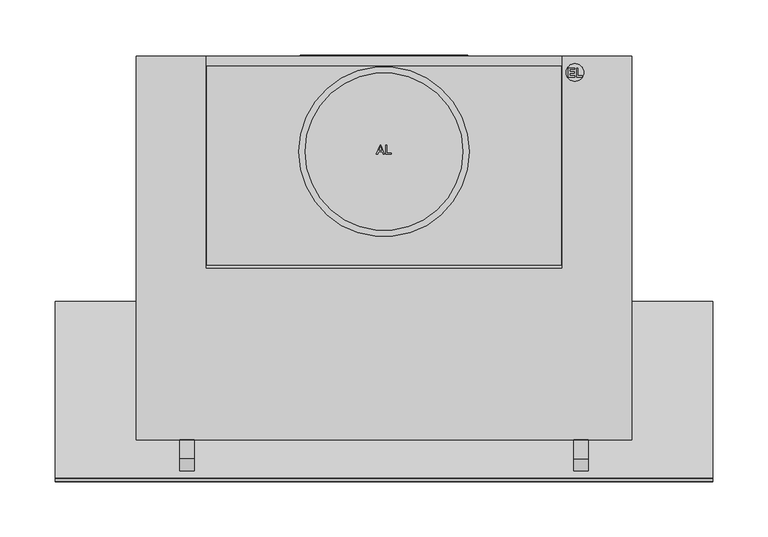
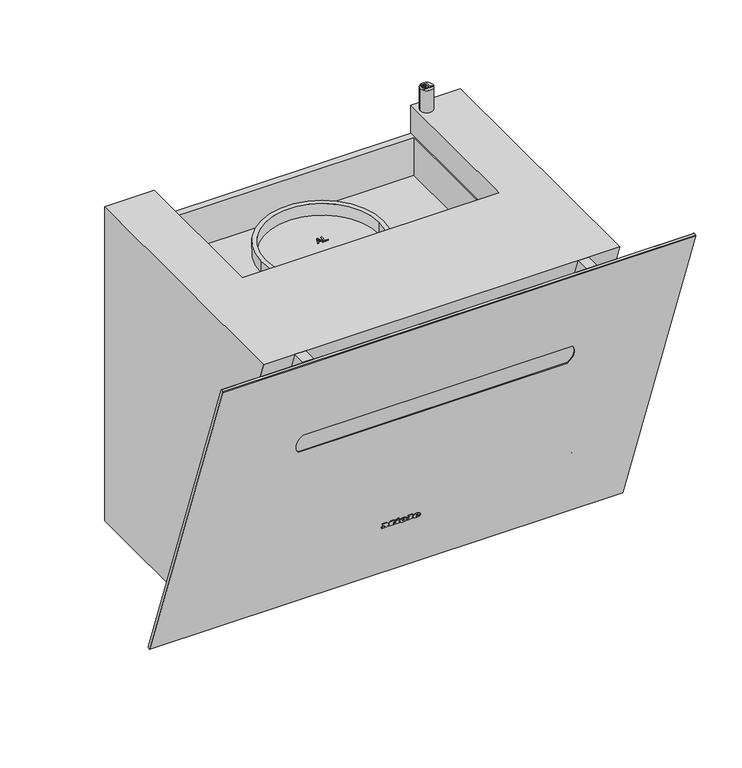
"""IFC4 building model written with IfcOpenShell, lengths in millimetres: proxy geometry, 12555210_TR_DAH1650_OBSW : 28H1650B_TR_12555210_DAH1650_OBSW."""

from ifc_helpers import new_model, si_unit, point, frame, frame_2d, origin, origin_with_axes, place, context, project, spatial, polyline, circle_curve, ellipse_curve, trimmed, segment, composite_curve, outline, extrude, faceted_brep, source, transform, mapped, element, save
from ifc_brep_helpers import plane_surface, cylinder_surface, revolved_surface, extruded_surface, advanced_brep


def specialty_equipment_5fea437a(model_context):
    return source(origin(), model_context, "Body", "SolidModel", [
        extrude(outline(polyline([(0.0, 0.0), (0.968, 0.0), (0.968, 5.352), (0.0, 5.352), (0.0, 6.696), (3.52, 6.696), (3.52, 5.352), (2.56, 5.352), (2.56, 1.9488753), (6.136, 6.696), (9.728, 1.8807777), (9.728, 5.352), (8.744, 5.352), (8.744, 6.696), (15.128, 6.696), (15.128, 5.352), (14.112, 5.352), (14.112, 0.0), (15.128, 0.0), (15.128, -1.304), (10.256, -1.304), (7.92, 1.696), (5.576, -1.304), (0.0, -1.304), (0.0, 0.0)])), frame((-24.271984, -261.1380975, 82.2921818), z_axis=(0.0, 0.9396926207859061, 0.34202014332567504), x_axis=(1.0, 0.0, 0.0)), (0.0, 0.0, 1.0), 1.0),
        extrude(outline(polyline([(0.0, 0.0), (0.96, 0.0), (0.96, 5.352), (0.0, 5.352), (0.0, 6.696), (6.488, 6.696), (6.488, 5.352), (5.504, 5.352), (5.504, -1.304), (0.0, -1.304), (0.0, 0.0)])), frame((8.192016, -261.1380975, 82.2921818), z_axis=(0.0, 0.9396926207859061, 0.34202014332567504), x_axis=(1.0, 0.0, 0.0)), (0.0, 0.0, 1.0), 1.0),
        extrude(outline(polyline([(0.0, 0.0), (1.4315306, 0.0), (1.4390414, -2.9920869), (0.0109086, -2.9993294), (0.0, 0.0)])), frame((-6.351984, -261.4226582, 83.074006), z_axis=(0.0, 0.9396926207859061, 0.342020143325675), x_axis=(0.42472021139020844, 0.30963927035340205, -0.8507269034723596)), (0.0, 0.0, 1.0), 1.0),
        extrude(outline(polyline([(0.4933907, 2.4141097), (1.7898156, 3.022309), (2.1941493, 2.1604399), (5.1636141, 3.5535222), (4.7592805, 4.4153913), (5.9760369, 4.9862153), (8.6568708, -0.728194), (7.4401145, -1.299018), (7.0459741, -0.4588767), (2.7800843, -2.4601583), (0.4933907, 2.4141097)])), frame((-6.351984, -261.4226582, 83.074006), z_axis=(0.0, 0.9396926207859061, 0.342020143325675), x_axis=(0.42472021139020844, 0.30963927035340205, -0.8507269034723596)), (0.0, 0.0, 1.0), 1.0),
        advanced_brep(
        [(2.392016, -259.4964008, 77.7816572), (2.392016, -259.7727531, 78.5409288), (7.744016, -259.7727531, 78.5409288), (-1.567984, -259.7727531, 78.5409288), (0.632016, -258.8479306, 76.0), (7.608016, -259.4964008, 77.7816572), (5.192016, -259.4964008, 77.7816572), (3.288016, -259.1899507, 76.9396926), (2.392016, -260.1229817, 79.5031741), (2.392016, -260.4212233, 80.3225861), (3.760016, -260.4212233, 80.3225861), (3.760016, -260.1229817, 79.5031741), (2.392016, -258.5567082, 78.1236774), (3.288016, -258.2502581, 77.2817128), (5.192016, -258.5567082, 78.1236774), (7.608016, -258.5567082, 78.1236774), (0.632016, -257.908238, 76.3420201), (-1.567984, -258.8330604, 78.882949), (7.744016, -258.8330604, 78.882949), (2.392016, -258.8330604, 78.882949), (2.392016, -259.1832891, 79.8451942), (3.760016, -259.1832891, 79.8451942), (3.760016, -259.4815306, 80.6646062), (2.392016, -259.4815306, 80.6646062)],
        [
            (0, 1),
            (1, 2),
            (2, 3, ellipse_curve(frame((3.088016, -259.7727531, 78.5409288), z_axis=(0.0, -0.9396926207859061, -0.34202014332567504), x_axis=(-1.0, 0.0, 0.0)), 4.656, 3.848)),
            (3, 4, circle_curve(frame((1.5280596, -259.8657825, 78.7965252), z_axis=(0.0, -0.9396926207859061, -0.34202014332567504), x_axis=(0.0, 0.34202014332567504, -0.9396926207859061)), 3.1079688)),
            (4, 5, circle_curve(frame((2.9948096, -260.5881291, 80.7811561), z_axis=(0.0, -0.9396926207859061, -0.34202014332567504), x_axis=(0.0, 0.34202014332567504, -0.9396926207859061)), 5.6098607)),
            (5, 6),
            (6, 7, circle_curve(frame((3.6790748, -259.7508638, 78.4807885), z_axis=(0.0, 0.9396926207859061, 0.34202014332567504), x_axis=(0.0, 0.34202014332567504, -0.9396926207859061)), 1.6859795)),
            (7, 0, circle_curve(frame((3.288016, -259.4964008, 77.7816572), z_axis=(0.0, 0.9396926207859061, 0.34202014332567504), x_axis=(0.0, 0.34202014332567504, -0.9396926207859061)), 0.896)),
            (8, 9),
            (9, 10, circle_curve(frame((3.076016, -260.4212233, 80.3225861), z_axis=(0.0, 0.9396926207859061, 0.34202014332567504), x_axis=(0.0, 0.34202014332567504, -0.9396926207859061)), 0.684)),
            (10, 11),
            (11, 8),
            (12, 13, circle_curve(frame((3.288016, -258.5567082, 78.1236774), z_axis=(0.0, -0.9396926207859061, -0.34202014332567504), x_axis=(0.0, 0.34202014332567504, -0.9396926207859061)), 0.896)),
            (13, 14, circle_curve(frame((3.6790748, -258.8111712, 78.8228087), z_axis=(0.0, -0.9396926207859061, -0.34202014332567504), x_axis=(0.0, 0.34202014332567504, -0.9396926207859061)), 1.6859795)),
            (14, 15),
            (15, 16, circle_curve(frame((2.9948096, -259.6484365, 81.1231762), z_axis=(0.0, 0.9396926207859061, 0.34202014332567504), x_axis=(0.0, 0.34202014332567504, -0.9396926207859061)), 5.6098607)),
            (16, 17, circle_curve(frame((1.5280596, -258.9260899, 79.1385454), z_axis=(0.0, 0.9396926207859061, 0.34202014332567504), x_axis=(0.0, 0.34202014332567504, -0.9396926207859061)), 3.1079688)),
            (17, 18, ellipse_curve(frame((3.088016, -258.8330604, 78.882949), z_axis=(0.0, 0.9396926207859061, 0.34202014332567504), x_axis=(-1.0, 0.0, 0.0)), 4.656, 3.848)),
            (18, 19),
            (19, 12),
            (20, 21),
            (21, 22),
            (22, 23, circle_curve(frame((3.076016, -259.4815306, 80.6646062), z_axis=(0.0, -0.9396926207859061, -0.34202014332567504), x_axis=(0.0, 0.34202014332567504, -0.9396926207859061)), 0.684)),
            (23, 20),
            (0, 12),
            (19, 1),
            (18, 2),
            (5, 15),
            (14, 6),
            (17, 3),
            (13, 7),
            (16, 4),
            (8, 20),
            (23, 9),
            (22, 10),
            (21, 11),
        ],
        [
            plane_surface(frame((2.392016, -259.7727531, 78.5409288), z_axis=(0.0, -0.9396926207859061, -0.34202014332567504), x_axis=(0.0, -0.34202014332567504, 0.9396926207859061))),
            plane_surface(frame((2.392016, -258.8330604, 78.882949), z_axis=(0.0, 0.9396926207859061, 0.34202014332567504), x_axis=(0.0, 0.34202014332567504, -0.9396926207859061))),
            plane_surface(frame((2.392016, -259.4964008, 77.7816572), z_axis=(1.0, 0.0, 0.0), x_axis=(0.0, 0.9396926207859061, 0.34202014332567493))),
            plane_surface(frame((2.392016, -259.7727531, 78.5409288), z_axis=(0.0, 0.34202014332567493, -0.9396926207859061), x_axis=(0.0, 0.9396926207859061, 0.34202014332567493))),
            plane_surface(frame((7.608016, -259.4964008, 77.7816572), z_axis=(0.0, -0.34202014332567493, 0.9396926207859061), x_axis=(0.0, 0.9396926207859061, 0.34202014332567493))),
            extruded_surface(trimmed(ellipse_curve(frame((3.088016, -257.8933678, 79.2249691), z_axis=(0.0, -0.9396926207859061, -0.34202014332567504), x_axis=(-1.0, 0.0, 0.0)), 4.656, 3.848), [point((7.744016, -257.8933678, 79.2249691))], [point((-1.567984, -257.8933678, 79.2249691))], True, "CARTESIAN"), (0.0, -0.9396926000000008, -0.34202009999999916), 0.9999999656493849),
            revolved_surface(polyline([(3.6790748, -258.2345321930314, 77.23850622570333), (3.6790748, -259.1742248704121, 76.89648606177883)]), (3.6790748, -258.8111712, 78.8228087), (0.0, 0.9396926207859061, 0.34202014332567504)),
            revolved_surface(polyline([(3.288016, -258.25025810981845, 77.28171282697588), (3.288016, -259.1899507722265, 76.93969266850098)]), (3.288016, -258.5567082, 78.1236774), (0.0, 0.9396926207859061, 0.34202014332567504)),
            cylinder_surface(frame((1.5280596, -258.9260899, 79.1385454), z_axis=(0.0, -0.9396926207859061, -0.34202014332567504), x_axis=(0.0, 0.34202014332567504, -0.9396926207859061)), 3.1079688),
            cylinder_surface(frame((2.9948096, -259.6484365, 81.1231762), z_axis=(0.0, -0.9396926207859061, -0.34202014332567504), x_axis=(0.0, 0.34202014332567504, -0.9396926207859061)), 5.6098607),
            plane_surface(frame((2.392016, -260.1229817, 79.5031741), z_axis=(1.0, 0.0, 0.0), x_axis=(0.0, 0.9396926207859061, 0.34202014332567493))),
            revolved_surface(polyline([(3.076016, -259.2475888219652, 80.02185644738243), (3.076016, -260.1872814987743, 79.67983628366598)]), (3.076016, -259.4815306, 80.6646062), (0.0, 0.9396926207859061, 0.34202014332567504)),
            plane_surface(frame((3.760016, -260.4212233, 80.3225861), z_axis=(-1.0, 0.0, 0.0), x_axis=(0.0, 0.9396926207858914, 0.3420201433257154))),
            plane_surface(frame((3.760016, -260.1229817, 79.5031741), z_axis=(0.0, -0.34202014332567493, 0.9396926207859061), x_axis=(0.0, 0.9396926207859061, 0.34202014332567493))),
        ],
        [
            (0, [[1, 2, 3, 4, 5, 6, 7, 8], [9, 10, 11, 12]]),
            (1, [[13, 14, 15, 16, 17, 18, 19, 20], [21, 22, 23, 24]]),
            (2, [[-1, 25, -20, 26]]),
            (3, [[-2, -26, -19, 27]]),
            (4, [[-6, 28, -15, 29]]),
            (5, [[-3, -27, -18, 30]]),
            (6, [[-7, -29, -14, 31]]),
            (7, [[-8, -31, -13, -25]]),
            (8, [[-4, -30, -17, 32]]),
            (9, [[-5, -32, -16, -28]]),
            (10, [[-9, 33, -24, 34]]),
            (11, [[-10, -34, -23, 35]]),
            (12, [[-11, -35, -22, 36]]),
            (13, [[-12, -36, -21, -33]]),
        ],
    ),
        advanced_brep(
        [(19.088016, -259.4964008, 77.7816572), (19.088016, -259.7727531, 78.5409288), (24.440016, -259.7727531, 78.5409288), (15.128016, -259.7727531, 78.5409288), (17.328016, -258.8479306, 76.0), (24.304016, -259.4964008, 77.7816572), (21.888016, -259.4964008, 77.7816572), (19.984016, -259.1899507, 76.9396926), (19.088016, -260.1229817, 79.5031741), (19.088016, -260.4212233, 80.3225861), (20.456016, -260.4212233, 80.3225861), (20.456016, -260.1229817, 79.5031741), (19.088016, -258.5567082, 78.1236774), (19.984016, -258.2502581, 77.2817128), (21.888016, -258.5567082, 78.1236774), (24.304016, -258.5567082, 78.1236774), (17.328016, -257.908238, 76.3420201), (15.128016, -258.8330604, 78.882949), (24.440016, -258.8330604, 78.882949), (19.088016, -258.8330604, 78.882949), (19.088016, -259.1832891, 79.8451942), (20.456016, -259.1832891, 79.8451942), (20.456016, -259.4815306, 80.6646062), (19.088016, -259.4815306, 80.6646062)],
        [
            (0, 1),
            (1, 2),
            (2, 3, ellipse_curve(frame((19.784016, -259.7727531, 78.5409288), z_axis=(0.0, -0.9396926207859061, -0.34202014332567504), x_axis=(-1.0, 0.0, 0.0)), 4.656, 3.848)),
            (3, 4, circle_curve(frame((18.2240596, -259.8657825, 78.7965252), z_axis=(0.0, -0.9396926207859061, -0.34202014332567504), x_axis=(0.0, 0.34202014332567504, -0.9396926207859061)), 3.1079688)),
            (4, 5, circle_curve(frame((19.6908096, -260.5881291, 80.7811561), z_axis=(0.0, -0.9396926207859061, -0.34202014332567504), x_axis=(0.0, 0.34202014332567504, -0.9396926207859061)), 5.6098607)),
            (5, 6),
            (6, 7, circle_curve(frame((20.3750748, -259.7508638, 78.4807885), z_axis=(0.0, 0.9396926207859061, 0.34202014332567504), x_axis=(0.0, 0.34202014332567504, -0.9396926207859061)), 1.6859795)),
            (7, 0, circle_curve(frame((19.984016, -259.4964008, 77.7816572), z_axis=(0.0, 0.9396926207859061, 0.34202014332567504), x_axis=(0.0, 0.34202014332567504, -0.9396926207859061)), 0.896)),
            (8, 9),
            (9, 10, circle_curve(frame((19.772016, -260.4212233, 80.3225861), z_axis=(0.0, 0.9396926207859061, 0.34202014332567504), x_axis=(0.0, 0.34202014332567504, -0.9396926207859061)), 0.684)),
            (10, 11),
            (11, 8),
            (12, 13, circle_curve(frame((19.984016, -258.5567082, 78.1236774), z_axis=(0.0, -0.9396926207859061, -0.34202014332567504), x_axis=(0.0, 0.34202014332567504, -0.9396926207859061)), 0.896)),
            (13, 14, circle_curve(frame((20.3750748, -258.8111712, 78.8228087), z_axis=(0.0, -0.9396926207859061, -0.34202014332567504), x_axis=(0.0, 0.34202014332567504, -0.9396926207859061)), 1.6859795)),
            (14, 15),
            (15, 16, circle_curve(frame((19.6908096, -259.6484365, 81.1231762), z_axis=(0.0, 0.9396926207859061, 0.34202014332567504), x_axis=(0.0, 0.34202014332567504, -0.9396926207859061)), 5.6098607)),
            (16, 17, circle_curve(frame((18.2240596, -258.9260899, 79.1385454), z_axis=(0.0, 0.9396926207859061, 0.34202014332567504), x_axis=(0.0, 0.34202014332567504, -0.9396926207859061)), 3.1079688)),
            (17, 18, ellipse_curve(frame((19.784016, -258.8330604, 78.882949), z_axis=(0.0, 0.9396926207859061, 0.34202014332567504), x_axis=(-1.0, 0.0, 0.0)), 4.656, 3.848)),
            (18, 19),
            (19, 12),
            (20, 21),
            (21, 22),
            (22, 23, circle_curve(frame((19.772016, -259.4815306, 80.6646062), z_axis=(0.0, -0.9396926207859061, -0.34202014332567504), x_axis=(0.0, 0.34202014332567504, -0.9396926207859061)), 0.684)),
            (23, 20),
            (0, 12),
            (19, 1),
            (18, 2),
            (5, 15),
            (14, 6),
            (17, 3),
            (13, 7),
            (16, 4),
            (8, 20),
            (23, 9),
            (22, 10),
            (21, 11),
        ],
        [
            plane_surface(frame((19.088016, -259.7727531, 78.5409288), z_axis=(0.0, -0.9396926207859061, -0.34202014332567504), x_axis=(0.0, -0.34202014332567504, 0.9396926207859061))),
            plane_surface(frame((19.088016, -258.8330604, 78.882949), z_axis=(0.0, 0.9396926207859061, 0.34202014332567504), x_axis=(0.0, 0.34202014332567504, -0.9396926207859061))),
            plane_surface(frame((19.088016, -259.4964008, 77.7816572), z_axis=(1.0, 0.0, 0.0), x_axis=(0.0, 0.9396926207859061, 0.34202014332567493))),
            plane_surface(frame((19.088016, -259.7727531, 78.5409288), z_axis=(0.0, 0.34202014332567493, -0.9396926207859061), x_axis=(0.0, 0.9396926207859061, 0.34202014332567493))),
            plane_surface(frame((24.304016, -259.4964008, 77.7816572), z_axis=(0.0, -0.34202014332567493, 0.9396926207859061), x_axis=(0.0, 0.9396926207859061, 0.34202014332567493))),
            extruded_surface(trimmed(ellipse_curve(frame((19.784016, -257.8933678, 79.2249691), z_axis=(0.0, -0.9396926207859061, -0.34202014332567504), x_axis=(-1.0, 0.0, 0.0)), 4.656, 3.848), [point((24.440016, -257.8933678, 79.2249691))], [point((15.128016, -257.8933678, 79.2249691))], True, "CARTESIAN"), (0.0, -0.9396926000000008, -0.34202009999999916), 0.9999999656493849),
            revolved_surface(polyline([(20.3750748, -258.2345321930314, 77.23850622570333), (20.3750748, -259.1742248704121, 76.89648606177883)]), (20.3750748, -258.8111712, 78.8228087), (0.0, 0.9396926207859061, 0.34202014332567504)),
            revolved_surface(polyline([(19.984016, -258.25025810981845, 77.28171282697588), (19.984016, -259.1899507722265, 76.93969266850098)]), (19.984016, -258.5567082, 78.1236774), (0.0, 0.9396926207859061, 0.34202014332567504)),
            cylinder_surface(frame((18.2240596, -258.9260899, 79.1385454), z_axis=(0.0, -0.9396926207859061, -0.34202014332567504), x_axis=(0.0, 0.34202014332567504, -0.9396926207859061)), 3.1079688),
            cylinder_surface(frame((19.6908096, -259.6484365, 81.1231762), z_axis=(0.0, -0.9396926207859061, -0.34202014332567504), x_axis=(0.0, 0.34202014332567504, -0.9396926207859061)), 5.6098607),
            plane_surface(frame((19.088016, -260.1229817, 79.5031741), z_axis=(1.0, 0.0, 0.0), x_axis=(0.0, 0.9396926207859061, 0.34202014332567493))),
            revolved_surface(polyline([(19.772016, -259.2475888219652, 80.02185644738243), (19.772016, -260.1872814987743, 79.67983628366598)]), (19.772016, -259.4815306, 80.6646062), (0.0, 0.9396926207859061, 0.34202014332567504)),
            plane_surface(frame((20.456016, -260.4212233, 80.3225861), z_axis=(-1.0, 0.0, 0.0), x_axis=(0.0, 0.9396926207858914, 0.3420201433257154))),
            plane_surface(frame((20.456016, -260.1229817, 79.5031741), z_axis=(0.0, -0.34202014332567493, 0.9396926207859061), x_axis=(0.0, 0.9396926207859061, 0.34202014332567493))),
        ],
        [
            (0, [[1, 2, 3, 4, 5, 6, 7, 8], [9, 10, 11, 12]]),
            (1, [[13, 14, 15, 16, 17, 18, 19, 20], [21, 22, 23, 24]]),
            (2, [[-1, 25, -20, 26]]),
            (3, [[-2, -26, -19, 27]]),
            (4, [[-6, 28, -15, 29]]),
            (5, [[-3, -27, -18, 30]]),
            (6, [[-7, -29, -14, 31]]),
            (7, [[-8, -31, -13, -25]]),
            (8, [[-4, -30, -17, 32]]),
            (9, [[-5, -32, -16, -28]]),
            (10, [[-9, 33, -24, 34]]),
            (11, [[-10, -34, -23, 35]]),
            (12, [[-11, -35, -22, 36]]),
            (13, [[-12, -36, -21, -33]]),
        ],
    ),
        advanced_brep(
        [(-198.5, -231.2422284, 80.5173231), (-198.5, -240.9843308, 107.2835295), (-198.5, -235.8312261, 109.4708926), (-198.5, -225.8887113, 82.1540576), (-198.5, -250.514978, 76.8365225), (-198.5, -258.1140866, 97.7149017), (-198.5, -258.4754112, 96.7430581), (-198.5, -251.4164577, 77.3487429), (-198.5, -254.9459345, 87.0459005), (-198.5, -230.9198317, 95.7906867)],
        [
            (0, 1, circle_curve(frame((-198.5, -236.1132796, 93.9004263), z_axis=(0.0, 0.9396926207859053, 0.3420201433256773), x_axis=(0.0, -0.3420201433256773, 0.9396926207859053)), 14.2420009)),
            (1, 2),
            (2, 3, circle_curve(frame((-198.5, -230.8599687, 95.8124751), z_axis=(0.0, -0.9396926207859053, -0.3420201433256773), x_axis=(0.0, -0.3420201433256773, 0.9396926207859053)), 14.5349844)),
            (3, 0),
            (4, 5, circle_curve(frame((-198.5, -254.3145323, 87.2757121), z_axis=(0.0, 0.9396926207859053, 0.3420201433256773), x_axis=(0.0, -0.3420201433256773, 0.9396926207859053)), 11.1091535)),
            (5, 1),
            (0, 4),
            (6, 7, circle_curve(frame((-198.5, -254.9459345, 87.0459005), z_axis=(0.0, 0.9396926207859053, 0.3420201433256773), x_axis=(0.0, -0.3420201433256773, 0.9396926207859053)), 10.3194996)),
            (7, 4),
            (4, 5, circle_curve(frame((-198.5, -254.3145323, 87.2757121), z_axis=(0.0, -0.9396926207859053, -0.3420201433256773), x_axis=(0.0, -0.3420201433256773, 0.9396926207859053)), 11.1091535)),
            (5, 6),
            (8, 7),
            (6, 8),
            (2, 9),
            (9, 3),
            (2, 3, circle_curve(frame((-198.5, -230.9198317, 95.7906867), z_axis=(0.0, 0.9396926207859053, 0.3420201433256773), x_axis=(0.0, -0.3420201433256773, 0.9396926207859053)), 14.535124)),
            (1, 0, circle_curve(frame((-198.5, -236.1132796, 93.9004263), z_axis=(0.0, 0.9396926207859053, 0.3420201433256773), x_axis=(0.0, -0.3420201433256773, 0.9396926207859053)), 14.2420009)),
            (7, 6, circle_curve(frame((-198.5, -254.9459345, 87.0459005), z_axis=(0.0, 0.9396926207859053, 0.3420201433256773), x_axis=(0.0, -0.3420201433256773, 0.9396926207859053)), 10.3194996)),
        ],
        [
            revolved_surface(polyline([(-198.5, -235.8312261, 109.4708926), (-198.5, -240.9843308, 107.2835295)]), (-198.5, -255.2773841, 86.9252627), (0.0, -0.9396926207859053, -0.3420201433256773)),
            revolved_surface(polyline([(-198.5, -240.9843308, 107.2835295), (-198.5, -258.1140866, 97.7149017)]), (-198.5, -255.2773841, 86.9252627), (0.0, -0.9396926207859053, -0.3420201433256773)),
            revolved_surface(polyline([(-198.5, -258.1140866, 97.7149017), (-198.5, -258.4754112, 96.7430581)]), (-198.5, -255.2773841, 86.9252627), (0.0, -0.9396926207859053, -0.3420201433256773)),
            plane_surface(frame((-198.5, -254.9459345, 87.0459005), z_axis=(0.0, -0.9396926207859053, -0.3420201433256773), x_axis=(0.0, -0.3420201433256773, 0.9396926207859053))),
            plane_surface(frame((-198.5, -230.9198317, 95.7906867), z_axis=(0.0, 0.9396926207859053, 0.3420201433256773), x_axis=(0.0, -0.3420201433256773, 0.9396926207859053))),
        ],
        [
            (0, [[1, 2, 3, 4]]),
            (1, [[5, 6, -1, 7]]),
            (2, [[8, 9, 10, 11]]),
            (3, [[12, -8, 13]]),
            (4, [[-3, 14, 15]]),
            (4, [[16, -15, -14]]),
            (0, [[17, -4, -16, -2]]),
            (1, [[-10, -7, -17, -6]]),
            (2, [[18, -11, -5, -9]]),
            (3, [[-13, -18, -12]]),
        ],
    ),
        advanced_brep(
        [(-198.5, -262.8067778, 105.2732379), (-198.5, -249.4001153, 68.4387353), (-198.5, -252.3199878, 80.8696014), (-198.5, -257.0531232, 93.8737841), (-198.5, -250.699917, 68.232867), (-198.5, -263.9348133, 104.5954458), (-198.5, -257.3173652, 86.4141564), (-198.5, -254.6865555, 87.3716928)],
        [
            (0, 1, circle_curve(frame((-198.5, -256.1034466, 86.8559866), z_axis=(0.0, 0.9396926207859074, 0.34202014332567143), x_axis=(0.0, -0.34202014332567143, 0.9396926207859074)), 19.5992294)),
            (1, 2),
            (2, 3, circle_curve(frame((-198.5, -254.6865555, 87.3716928), z_axis=(0.0, -0.9396926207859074, -0.34202014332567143), x_axis=(0.0, -0.34202014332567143, 0.9396926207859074)), 6.9193811)),
            (3, 0),
            (1, 0, circle_curve(frame((-198.5, -256.1034466, 86.8559866), z_axis=(0.0, 0.9396926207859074, 0.34202014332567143), x_axis=(0.0, -0.34202014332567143, 0.9396926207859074)), 19.5992294)),
            (3, 2, circle_curve(frame((-198.5, -254.6865555, 87.3716928), z_axis=(0.0, -0.9396926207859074, -0.34202014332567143), x_axis=(0.0, -0.34202014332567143, 0.9396926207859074)), 6.9193811)),
            (4, 5, circle_curve(frame((-198.5, -257.3173652, 86.4141564), z_axis=(0.0, 0.9396926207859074, 0.34202014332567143), x_axis=(0.0, -0.34202014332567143, 0.9396926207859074)), 19.3481241)),
            (5, 0),
            (1, 4),
            (5, 4, circle_curve(frame((-198.5, -257.3173652, 86.4141564), z_axis=(0.0, 0.9396926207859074, 0.34202014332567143), x_axis=(0.0, -0.34202014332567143, 0.9396926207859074)), 19.3481241)),
            (6, 5),
            (4, 6),
            (3, 7),
            (7, 2),
        ],
        [
            revolved_surface(polyline([(-198.5, -257.0531232, 93.8737841), (-198.5, -262.8067778, 105.2732379)]), (-198.5, -254.6865555, 87.3716928), (0.0, -0.9396926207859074, -0.34202014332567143)),
            revolved_surface(polyline([(-198.5, -262.8067778, 105.2732379), (-198.5, -263.9348133, 104.5954458)]), (-198.5, -254.6865555, 87.3716928), (0.0, -0.9396926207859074, -0.34202014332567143)),
            plane_surface(frame((-198.5, -257.3173652, 86.4141564), z_axis=(0.0, -0.9396926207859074, -0.34202014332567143), x_axis=(0.0, -0.34202014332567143, 0.9396926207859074))),
            plane_surface(frame((-198.5, -254.6865555, 87.3716928), z_axis=(0.0, 0.9396926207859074, 0.34202014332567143), x_axis=(0.0, -0.34202014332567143, 0.9396926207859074))),
        ],
        [
            (0, [[1, 2, 3, 4]]),
            (0, [[5, -4, 6, -2]]),
            (1, [[7, 8, -5, 9]]),
            (1, [[10, -9, -1, -8]]),
            (2, [[11, -7, 12]]),
            (2, [[-12, -10, -11]]),
            (3, [[-6, 13, 14]]),
            (3, [[-3, -14, -13]]),
        ],
    ),
        advanced_brep(
        [(198.5, -225.9091808, 82.1477994), (198.5, -235.8509293, 109.4625291), (198.5, -240.9843308, 107.2835295), (198.5, -231.2422284, 80.5173231), (198.5, -258.1140866, 97.7149017), (198.5, -250.514978, 76.8365225), (198.5, -230.9018417, 95.8650227), (198.5, -258.4754112, 96.7430581), (198.5, -251.4164577, 77.3487429), (198.5, -254.9459345, 87.0459005)],
        [
            (0, 1, circle_curve(frame((198.5, -230.8800551, 95.8051643), z_axis=(0.0, -0.9396926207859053, -0.3420201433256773), x_axis=(0.0, -0.3420201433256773, 0.9396926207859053)), 14.5338641)),
            (1, 2),
            (2, 3, circle_curve(frame((198.5, -236.1132796, 93.9004263), z_axis=(0.0, 0.9396926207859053, 0.3420201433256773), x_axis=(0.0, -0.3420201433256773, 0.9396926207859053)), 14.2420009)),
            (3, 0),
            (2, 4),
            (4, 5, circle_curve(frame((198.5, -254.3145323, 87.2757121), z_axis=(0.0, 0.9396926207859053, 0.3420201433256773), x_axis=(0.0, -0.3420201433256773, 0.9396926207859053)), 11.1091535)),
            (5, 3),
            (6, 1),
            (0, 6),
            (0, 1, circle_curve(frame((198.5, -230.8800551, 95.8051643), z_axis=(0.0, 0.9396926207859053, 0.3420201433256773), x_axis=(0.0, -0.3420201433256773, 0.9396926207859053)), 14.5338641)),
            (3, 2, circle_curve(frame((198.5, -236.1132796, 93.9004263), z_axis=(0.0, 0.9396926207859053, 0.3420201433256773), x_axis=(0.0, -0.3420201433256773, 0.9396926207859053)), 14.2420009)),
            (5, 4, circle_curve(frame((198.5, -254.3145323, 87.2757121), z_axis=(0.0, 0.9396926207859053, 0.3420201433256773), x_axis=(0.0, -0.3420201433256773, 0.9396926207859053)), 11.1091535)),
            (4, 7),
            (7, 8, circle_curve(frame((198.5, -254.9459345, 87.0459005), z_axis=(0.0, 0.9396926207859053, 0.3420201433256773), x_axis=(0.0, -0.3420201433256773, 0.9396926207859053)), 10.3194996)),
            (8, 5),
            (8, 7, circle_curve(frame((198.5, -254.9459345, 87.0459005), z_axis=(0.0, 0.9396926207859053, 0.3420201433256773), x_axis=(0.0, -0.3420201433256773, 0.9396926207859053)), 10.3194996)),
            (7, 9),
            (9, 8),
        ],
        [
            revolved_surface(polyline([(198.5, -240.9843308, 107.2835295), (198.5, -235.8509293, 109.4625291)]), (198.5, -255.2773841, 86.9252627), (0.0, 0.9396926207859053, 0.3420201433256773)),
            revolved_surface(polyline([(198.5, -258.1140866, 97.7149017), (198.5, -240.9843308, 107.2835295)]), (198.5, -255.2773841, 86.9252627), (0.0, 0.9396926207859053, 0.3420201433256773)),
            plane_surface(frame((198.5, -230.8800551, 95.8051643), z_axis=(0.0, 0.9396926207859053, 0.3420201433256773), x_axis=(0.0, -0.3420201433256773, 0.9396926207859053))),
            revolved_surface(polyline([(198.5, -258.4754112, 96.7430581), (198.5, -258.1140866, 97.7149017)]), (198.5, -255.2773841, 86.9252627), (0.0, 0.9396926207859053, 0.3420201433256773)),
            plane_surface(frame((198.5, -254.9459345, 87.0459005), z_axis=(0.0, -0.9396926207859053, -0.3420201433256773), x_axis=(0.0, -0.3420201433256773, 0.9396926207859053))),
        ],
        [
            (0, [[1, 2, 3, 4]]),
            (1, [[-3, 5, 6, 7]]),
            (2, [[8, -1, 9]]),
            (2, [[-9, 10, -8]]),
            (0, [[-10, -4, 11, -2]]),
            (1, [[-11, -7, 12, -5]]),
            (3, [[-6, 13, 14, 15]]),
            (3, [[-12, -15, 16, -13]]),
            (4, [[-14, 17, 18]]),
            (4, [[-16, -18, -17]]),
        ],
    ),
        advanced_brep(
        [(198.5, -252.3199878, 80.8696014), (198.5, -257.0531232, 93.8737841), (198.5, -262.8067778, 105.2732379), (198.5, -249.4001153, 68.4387353), (198.5, -263.9348133, 104.5954458), (198.5, -250.699917, 68.232867), (198.5, -257.3173652, 86.4141564), (198.5, -254.6865555, 87.3716928)],
        [
            (0, 1, circle_curve(frame((198.5, -254.6865555, 87.3716928), z_axis=(0.0, -0.9396926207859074, -0.34202014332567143), x_axis=(0.0, -0.34202014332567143, 0.9396926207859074)), 6.9193811)),
            (1, 2),
            (2, 3, circle_curve(frame((198.5, -256.1034466, 86.8559866), z_axis=(0.0, 0.9396926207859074, 0.34202014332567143), x_axis=(0.0, -0.34202014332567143, 0.9396926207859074)), 19.5992294)),
            (3, 0),
            (1, 0, circle_curve(frame((198.5, -254.6865555, 87.3716928), z_axis=(0.0, -0.9396926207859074, -0.34202014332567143), x_axis=(0.0, -0.34202014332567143, 0.9396926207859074)), 6.9193811)),
            (3, 2, circle_curve(frame((198.5, -256.1034466, 86.8559866), z_axis=(0.0, 0.9396926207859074, 0.34202014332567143), x_axis=(0.0, -0.34202014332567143, 0.9396926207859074)), 19.5992294)),
            (2, 4),
            (4, 5, circle_curve(frame((198.5, -257.3173652, 86.4141564), z_axis=(0.0, 0.9396926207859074, 0.34202014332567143), x_axis=(0.0, -0.34202014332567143, 0.9396926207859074)), 19.3481241)),
            (5, 3),
            (5, 4, circle_curve(frame((198.5, -257.3173652, 86.4141564), z_axis=(0.0, 0.9396926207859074, 0.34202014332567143), x_axis=(0.0, -0.34202014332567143, 0.9396926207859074)), 19.3481241)),
            (4, 6),
            (6, 5),
            (7, 1),
            (0, 7),
        ],
        [
            revolved_surface(polyline([(198.5, -262.8067778, 105.2732379), (198.5, -257.0531232, 93.8737841)]), (198.5, -254.6865555, 87.3716928), (0.0, 0.9396926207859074, 0.34202014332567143)),
            revolved_surface(polyline([(198.5, -263.9348133, 104.5954458), (198.5, -262.8067778, 105.2732379)]), (198.5, -254.6865555, 87.3716928), (0.0, 0.9396926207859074, 0.34202014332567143)),
            plane_surface(frame((198.5, -257.3173652, 86.4141564), z_axis=(0.0, -0.9396926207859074, -0.34202014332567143), x_axis=(0.0, -0.34202014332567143, 0.9396926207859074))),
            plane_surface(frame((198.5, -254.6865555, 87.3716928), z_axis=(0.0, 0.9396926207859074, 0.34202014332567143), x_axis=(0.0, -0.34202014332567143, 0.9396926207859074))),
        ],
        [
            (0, [[1, 2, 3, 4]]),
            (0, [[5, -4, 6, -2]]),
            (1, [[-3, 7, 8, 9]]),
            (1, [[-6, -9, 10, -7]]),
            (2, [[-8, 11, 12]]),
            (2, [[-10, -12, -11]]),
            (3, [[13, -1, 14]]),
            (3, [[-14, -5, -13]]),
        ],
    ),
        extrude(outline(polyline([(-377.2541471, 415.9959153), (-366.2530147, 420.0), (-348.8949883, 420.0), (-315.0686278, 327.0628384), (-321.2276447, 324.8211395), (-334.9582954, 325.4920509), (-347.6637142, 334.6968691), (-377.2541471, 415.9959153)])), frame((-185.7167767, 0.0, 0.0), z_axis=(1.0, 0.0, 0.0), x_axis=(0.0, 1.0, 0.0)), (0.0, 0.0, 1.0), 13.4088513),
        extrude(outline(polyline([(-377.2541471, 415.9959153), (-366.2530147, 420.0), (-348.8949883, 420.0), (-315.0686278, 327.0628384), (-321.2276447, 324.8211395), (-334.9582954, 325.4920509), (-347.6637142, 334.6968691), (-377.2541471, 415.9959153)])), frame((172.3079253, 0.0, 0.0), z_axis=(1.0, 0.0, 0.0), x_axis=(0.0, 1.0, 0.0)), (0.0, 0.0, 1.0), 13.4088513),
        advanced_brep(
        [(299.0, -387.3899893, 432.0882368), (299.0, -387.1323401, 432.8365045), (-299.0, -387.1323401, 432.8365045), (-299.0, -387.3899893, 432.0882368), (299.0, -227.0596169, -8.4158411), (299.0, -226.3696341, -8.8142029), (299.0, -223.5613092, -7.7920563), (299.0, -223.2772642, -7.0520936), (299.0, -383.5944926, 433.4158714), (299.0, -384.310791, 433.8634644), (-299.0, -384.310791, 433.8634644), (-299.0, -383.5944926, 433.4158714), (-299.0, -223.2772642, -7.0520936), (-299.0, -223.5613092, -7.7920563), (-299.0, -226.3696341, -8.8142029), (-299.0, -227.0596169, -8.4158411), (-170.0000153, -329.0580322, 271.8225017), (-170.0000153, -339.664028, 300.9622357), (169.9999847, -339.664028, 300.9622357), (169.9999847, -329.0580322, 271.8225017), (-170.0000153, -338.7237973, 301.3044517), (-170.0000153, -328.1178015, 272.1647177), (169.9999847, -328.1178015, 272.1647177), (169.9999847, -338.7237973, 301.3044517)],
        [
            (0, 1),
            (1, 2),
            (2, 3),
            (3, 0),
            (0, 4),
            (4, 5),
            (5, 6),
            (6, 7),
            (7, 8),
            (8, 9),
            (9, 1),
            (2, 10),
            (10, 11),
            (11, 12),
            (12, 13),
            (13, 14),
            (14, 15),
            (15, 3),
            (15, 4),
            (16, 17, circle_curve(frame((-150.89824, -334.3610301, 286.3923687), z_axis=(0.0, 0.9396926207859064, 0.3420201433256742), x_axis=(1.0, 0.0, 0.0)), 24.6024517)),
            (17, 18),
            (18, 19, circle_curve(frame((150.8956421, -334.3610301, 286.3923687), z_axis=(0.0, 0.9396926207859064, 0.3420201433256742), x_axis=(1.0, 0.0, 0.0)), 24.6044451)),
            (19, 16),
            (14, 5),
            (13, 6),
            (12, 7),
            (11, 8),
            (10, 9),
            (20, 21, circle_curve(frame((-150.89824, -333.4207994, 286.7345847), z_axis=(0.0, -0.9396926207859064, -0.3420201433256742), x_axis=(1.0, 0.0, 0.0)), 24.6024517)),
            (21, 22),
            (22, 23, circle_curve(frame((150.8956421, -333.4207994, 286.7345847), z_axis=(0.0, -0.9396926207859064, -0.3420201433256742), x_axis=(1.0, 0.0, 0.0)), 24.6044451)),
            (23, 20),
            (20, 17),
            (16, 21),
            (19, 22),
            (18, 23),
        ],
        [
            plane_surface(frame((299.0, -387.1323401, 432.8365045), z_axis=(0.0, -0.9455185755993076, 0.32556815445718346), x_axis=(-1.0, 0.0, 0.0))),
            plane_surface(frame((299.0, -387.1323401, 432.8365045), z_axis=(1.0, 0.0, 0.0), x_axis=(0.0, -0.32556815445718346, -0.9455185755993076))),
            plane_surface(frame((-299.0, -387.1323401, 432.8365045), z_axis=(-1.0, 0.0, 0.0), x_axis=(0.0, 0.32556815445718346, 0.9455185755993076))),
            plane_surface(frame((299.0, -387.3899893, 432.0882368), z_axis=(0.0, -0.939692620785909, -0.34202014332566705), x_axis=(-1.0, 0.0, 0.0))),
            plane_surface(frame((299.0, -227.0596169, -8.4158411), z_axis=(0.0, -0.49999999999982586, -0.8660254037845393), x_axis=(-1.0, 0.0, 0.0))),
            plane_surface(frame((299.0, -226.3696341, -8.8142029), z_axis=(0.0, 0.34202014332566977, -0.939692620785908), x_axis=(-1.0, 0.0, 0.0))),
            plane_surface(frame((299.0, -223.5613092, -7.7920563), z_axis=(0.0, 0.9335804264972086, -0.35836794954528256), x_axis=(-1.0, 0.0, 0.0))),
            plane_surface(frame((299.0, -223.2772642, -7.0520936), z_axis=(0.0, 0.9396926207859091, 0.3420201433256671), x_axis=(-1.0, 0.0, 0.0))),
            plane_surface(frame((299.0, -383.5944926, 433.4158714), z_axis=(0.0, 0.5299192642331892, 0.8480480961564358), x_axis=(-1.0, 0.0, 0.0))),
            plane_surface(frame((299.0, -384.310791, 433.8634644), z_axis=(0.0, -0.3420201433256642, 0.9396926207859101), x_axis=(-1.0, 0.0, 0.0))),
            plane_surface(frame((-126.2957883, -333.4207994, 286.7345847), z_axis=(0.0, -0.9396926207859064, -0.3420201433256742), x_axis=(0.0, 0.3420201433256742, -0.9396926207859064))),
            revolved_surface(polyline([(-126.29578829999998, -334.3610301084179, 286.3923687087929), (-126.29578829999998, -333.4207993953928, 286.7345847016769)]), (-150.89824, -333.4207994, 286.7345847), (0.0, -0.9396926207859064, -0.3420201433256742)),
            plane_surface(frame((-170.0000153, -333.9337198, 270.0478966), z_axis=(0.0, -0.3420201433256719, 0.9396926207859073), x_axis=(0.0, 0.9396926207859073, 0.3420201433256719))),
            revolved_surface(polyline([(175.5000872, -334.3610301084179, 286.3923687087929), (175.5000872, -333.4207993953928, 286.7345847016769)]), (150.8956421, -333.4207994, 286.7345847), (0.0, -0.9396926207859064, -0.3420201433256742)),
            plane_surface(frame((169.9999847, -344.5397156, 299.1876306), z_axis=(0.0, 0.3420201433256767, -0.9396926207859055), x_axis=(0.0, 0.9396926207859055, 0.3420201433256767))),
        ],
        [
            (0, [[1, 2, 3, 4]]),
            (1, [[-1, 5, 6, 7, 8, 9, 10, 11]]),
            (2, [[12, 13, 14, 15, 16, 17, 18, -3]]),
            (3, [[-5, -4, -18, 19], [20, 21, 22, 23]]),
            (4, [[-6, -19, -17, 24]]),
            (5, [[-7, -24, -16, 25]]),
            (6, [[-8, -25, -15, 26]]),
            (7, [[-9, -26, -14, 27]]),
            (8, [[-10, -27, -13, 28]]),
            (9, [[-11, -28, -12, -2]]),
            (10, [[29, 30, 31, 32]]),
            (11, [[-29, 33, -20, 34]]),
            (12, [[-30, -34, -23, 35]]),
            (13, [[-31, -35, -22, 36]]),
            (14, [[-32, -36, -21, -33]]),
        ],
    ),
        faceted_brep([(225.0000193, -349.0, 420.0), (225.0000193, -196.2332597, 0.0), (225.0000193, 0.0, 0.0), (225.0000193, 0.0, 420.0), (-225.0000193, -349.0, 420.0), (-225.0000193, 0.0, 420.0), (-225.0000193, 0.0, 0.0), (-225.0000193, -196.2332597, 0.0), (176.5, -48.0, 0.0), (-176.5, -48.0, 0.0), (-176.5, -181.0, 0.0), (176.5, -181.0, 0.0), (125.0, -12.0, 0.0), (-125.0, -12.0, 0.0), (-125.0, -38.0, 0.0), (125.0, -38.0, 0.0), (-162.2229137, 0.0, 420.0), (-162.2229137, 0.0, 382.5), (162.2229137, 0.0, 382.5), (162.2229137, 0.0, 420.0), (-160.9556997, -9.0, 332.0), (160.9556997, -9.0, 332.0), (160.9556997, -9.0, 382.5), (-160.9556997, -9.0, 382.5), (-160.9556997, -190.0399284, 332.0), (-160.9556997, -190.0399284, 382.5), (160.9556997, -190.0399284, 332.0), (160.9556997, -190.0399284, 382.5), (176.5, -48.0, 11.0), (-176.5, -48.0, 11.0), (125.0, -12.0, 11.0), (-125.0, -12.0, 11.0), (162.2229137, -193.2332597, 420.0), (-162.2229137, -193.2332597, 420.0), (176.5, -181.0, 11.0), (-176.5, -181.0, 11.0), (125.0, -38.0, 11.0), (-125.0, -38.0, 11.0), (162.2229137, -193.2332597, 382.5), (-162.2229137, -193.2332597, 382.5)], [[[0, 1, 2, 3]], [[4, 5, 6, 7]], [[1, 0, 4, 7]], [[2, 1, 7, 6], [8, 9, 10, 11], [12, 13, 14, 15]], [[3, 2, 6, 5, 16, 17, 18, 19]], [[20, 21, 22, 23]], [[24, 20, 23, 25]], [[21, 26, 27, 22]], [[28, 29, 9, 8]], [[30, 31, 13, 12]], [[0, 3, 19, 32, 33, 16, 5, 4]], [[21, 20, 24, 26]], [[26, 24, 25, 27]], [[28, 34, 35, 29]], [[29, 35, 10, 9]], [[35, 34, 11, 10]], [[34, 28, 8, 11]], [[30, 36, 37, 31]], [[31, 37, 14, 13]], [[37, 36, 15, 14]], [[36, 30, 12, 15]], [[32, 38, 39, 33]], [[39, 38, 18, 17], [23, 22, 27, 25]], [[38, 32, 19, 18]], [[33, 39, 17, 16]]]),
        extrude(outline(polyline([(125.0, -12.0), (125.0, -38.0), (-125.0, -38.0), (-125.0, -12.0), (125.0, -12.0)]), holes=[polyline([(-119.0, -31.2), (119.0, -31.2), (119.0, -18.8), (-119.0, -18.8), (-119.0, -31.2)])]), origin_with_axes(), (0.0, 0.0, 1.0), 11.0),
        extrude(outline(polyline([(119.0, -18.8), (119.0, -31.2), (-119.0, -31.2), (-119.0, -18.8), (119.0, -18.8)])), origin_with_axes(), (0.0, 0.0, 1.0), 11.0),
        extrude(outline(polyline([(176.5, -48.0), (176.5, -181.0), (-176.5, -181.0), (-176.5, -48.0), (176.5, -48.0)]), holes=[polyline([(167.5, -57.0), (-167.5, -57.0), (-167.5, -172.0), (167.5, -172.0), (167.5, -57.0)])]), origin_with_axes(), (0.0, 0.0, 1.0), 11.0),
        extrude(outline(polyline([(167.5, -57.0), (167.5, -172.0), (-167.5, -172.0), (-167.5, -57.0), (167.5, -57.0)])), frame((0.0, 0.0, 1.0), z_axis=(0.0, 0.0, 1.0), x_axis=(1.0, 0.0, 0.0)), (0.0, 0.0, 1.0), 10.0),
        extrude(outline(polyline([(-167.5, -98.0), (-124.5000193, -98.0), (-124.5000193, -131.0), (-167.5, -131.0), (-167.5, -98.0)]), holes=[polyline([(-131.0000193, -104.5), (-160.0000193, -104.5), (-160.0000193, -124.5), (-131.0000193, -124.5), (-131.0000193, -104.5)])]), origin_with_axes(), (0.0, 0.0, 1.0), 1.0),
        extrude(outline(polyline([(-131.0000193, -104.5), (-131.0000193, -124.5), (-140.0000193, -124.5), (-140.0000193, -104.5), (-131.0000193, -104.5)])), origin_with_axes(), (0.0, 0.0, 1.0), 1.0),
        extrude(outline(composite_curve([segment(trimmed(circle_curve(frame_2d((0.0, -86.9971466)), 77.2963157), [point((-77.2963157, -86.9971466))], [point((77.2963157, -86.9971466))], False, "CARTESIAN"), True, "CONTINUOUS"), segment(trimmed(circle_curve(frame_2d((0.0, -86.9971466)), 77.2963157), [point((77.2963157, -86.9971466))], [point((-77.2963157, -86.9971466))], False, "CARTESIAN"), True, "CONTINUOUS")], self_intersect=False), holes=[composite_curve([segment(trimmed(circle_curve(frame_2d((0.0, -86.9971466)), 71.617422), [point((-71.617422, -86.9971466))], [point((71.617422, -86.9971466))], True, "CARTESIAN"), True, "CONTINUOUS"), segment(trimmed(circle_curve(frame_2d((0.0, -86.9971466)), 71.617422), [point((71.617422, -86.9971466))], [point((-71.617422, -86.9971466))], True, "CARTESIAN"), True, "CONTINUOUS")], self_intersect=False)]), frame((0.0, 0.0, 332.0), z_axis=(0.0, 0.0, 1.0), x_axis=(1.0, 0.0, 0.0)), (0.0, 0.0, 1.0), 15.9326282),
        extrude(outline(polyline([(-6.835738, -89.2416424), (-3.627807, -81.2051375), (-2.7723587, -81.2051375), (0.4336102, -89.2416424), (-0.6278519, -89.2416424), (-1.5460854, -86.7302346), (-4.8580044, -86.7302346), (-5.7762378, -89.2416424), (-6.835738, -89.2416424)]), holes=[polyline([(-4.4891414, -85.7256715), (-1.9129864, -85.7256715), (-2.6389402, -83.7498999), (-3.2020449, -82.2097006), (-3.7023644, -83.5772407), (-4.4891414, -85.7256715)])]), frame((0.0, 0.0, 347.9326282), z_axis=(0.0, 0.0, 1.0), x_axis=(1.0, 0.0, 0.0)), (0.0, 0.0, 1.0), 1.0),
        extrude(outline(polyline([(1.5068447, -89.2416424), (1.5068447, -81.2051375), (2.5114078, -81.2051375), (2.5114078, -88.2370793), (6.5296602, -88.2370793), (6.5296602, -89.2416424), (1.5068447, -89.2416424)])), frame((0.0, 0.0, 347.9326282), z_axis=(0.0, 0.0, 1.0), x_axis=(1.0, 0.0, 0.0)), (0.0, 0.0, 1.0), 1.0),
        extrude(outline(composite_curve([segment(trimmed(circle_curve(frame_2d((192.5519409, 0.0)), 76.1990432), [point((192.5519409, -76.1990432))], [point((192.5519409, 76.1990432))], False, "CARTESIAN"), True, "CONTINUOUS"), segment(trimmed(circle_curve(frame_2d((192.5519409, 0.0)), 76.1990432), [point((192.5519409, 76.1990432))], [point((192.5519409, -76.1990432))], False, "CARTESIAN"), True, "CONTINUOUS")], self_intersect=False)), frame((0.0, 0.0, 0.0), z_axis=(0.0, 1.0, 0.0), x_axis=(0.0, 0.0, 1.0)), (0.0, 0.0, 1.0), 1.0),
        extrude(outline(composite_curve([segment(trimmed(circle_curve(frame_2d((173.4999807, -15.0000005)), 8.0), [point((165.4999807, -15.0000005))], [point((181.4999807, -15.0000005))], False, "CARTESIAN"), True, "CONTINUOUS"), segment(trimmed(circle_curve(frame_2d((173.4999807, -15.0000005)), 8.0), [point((181.4999807, -15.0000005))], [point((165.4999807, -15.0000005))], False, "CARTESIAN"), True, "CONTINUOUS")], self_intersect=False)), frame((0.0, 0.0, 420.0), z_axis=(0.0, 0.0, 1.0), x_axis=(1.0, 0.0, 0.0)), (0.0, 0.0, 1.0), 30.0),
        extrude(outline(polyline([(167.5981725, -19.0000005), (167.5981725, -10.9634957), (173.3744104, -10.9634957), (173.3744104, -11.9680588), (168.6027356, -11.9680588), (168.6027356, -14.3538961), (173.1232696, -14.3538961), (173.1232696, -15.3584592), (168.6027356, -15.3584592), (168.6027356, -17.9954374), (173.4999807, -17.9954374), (173.4999807, -19.0000005), (167.5981725, -19.0000005)])), frame((0.0, 0.0, 450.0), z_axis=(0.0, 0.0, 1.0), x_axis=(1.0, 0.0, 0.0)), (0.0, 0.0, 1.0), 1.0),
        extrude(outline(polyline([(175.0068254, -19.0000005), (175.0068254, -10.9634957), (176.0113885, -10.9634957), (176.0113885, -17.9954374), (180.0296409, -17.9954374), (180.0296409, -19.0000005), (175.0068254, -19.0000005)])), frame((0.0, 0.0, 450.0), z_axis=(0.0, 0.0, 1.0), x_axis=(1.0, 0.0, 0.0)), (0.0, 0.0, 1.0), 1.0),
    ])


if __name__ == "__main__":
    model = new_model("IFC4")
    model_context = context("Model", 3, world=origin())
    ifc_project = project(units=[si_unit("LENGTHUNIT", "METRE", prefix="MILLI")], contexts=[model_context])
    site = spatial("IfcSite", under=ifc_project)
    building = spatial("IfcBuilding", under=site)
    placement = place(None, origin())
    specialty_equipment_shape = specialty_equipment_5fea437a(model_context)
    element("IfcBuildingElementProxy", 1, Name="12555210_TR_DAH1650_OBSW : 28H1650B_TR_12555210_DAH1650_OBSW", ObjectType="12555210_TR_DAH1650_OBSW : 28H1650B_TR_12555210_DAH1650_OBSW", at=placement, inside=building, context=model_context, shape_type="MappedRepresentation", body=[
        mapped(specialty_equipment_shape, transform((0.0, 0.0, 0.0), x_axis=(1.0, 0.0, 0.0), y_axis=(0.0, 1.0, 0.0), z_axis=(0.0, 0.0, 1.0))),
    ])
    save(model, "model.ifc")
